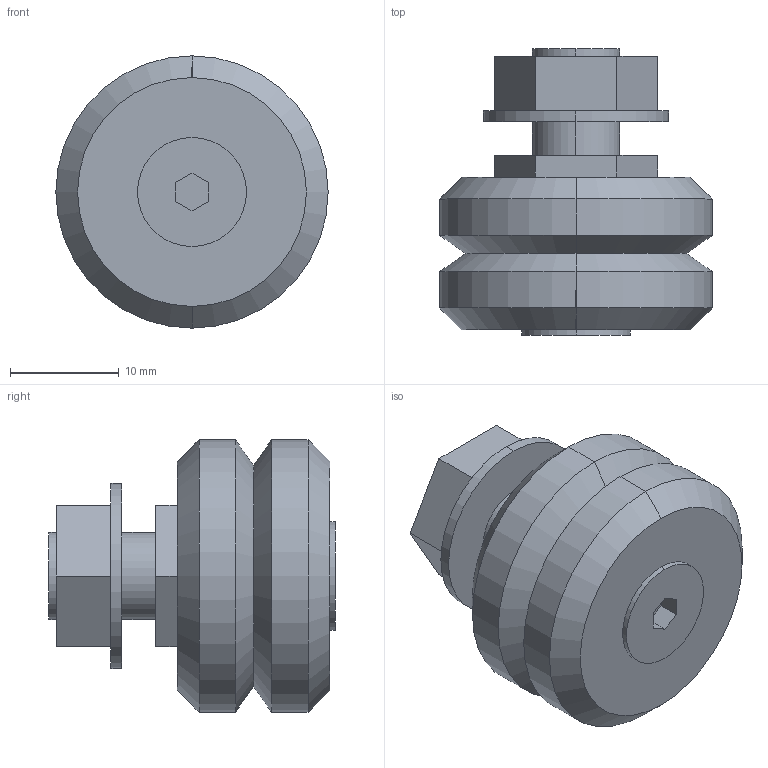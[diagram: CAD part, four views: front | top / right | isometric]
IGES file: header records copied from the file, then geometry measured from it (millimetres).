
Start section: 3D InterOp IGES (v. 2019 1.0.2), Spatial Corp. Copyright (c) 1999-2017.
Global section: file name: SS SJ25 C.igs; native system: Spatial Corp.; preprocessor: 3D InterOp GENERIC/IGES 3.0; author: Noname; organization: Noname; date: 20220628.114801; units: millimetre
Bounding box: 25 x 26.3 x 25 mm (x, y, z)
Surface area: 2891.4 mm2 (no closed solid volume)
Topology: 0 solids, 0 shells, 47 faces, 208 edges, 208 vertices
Faces by surface type: extrusion 27, revolution 20
